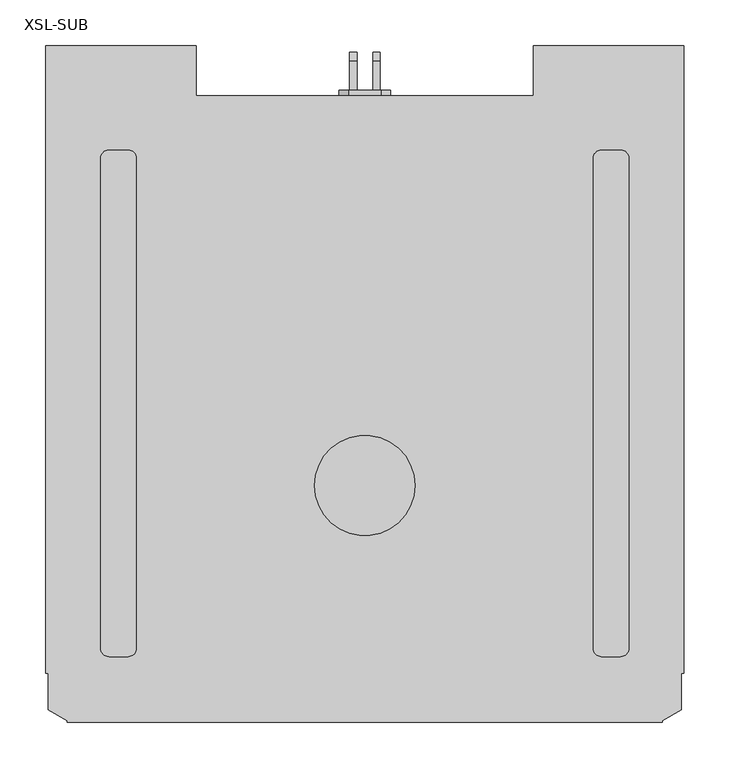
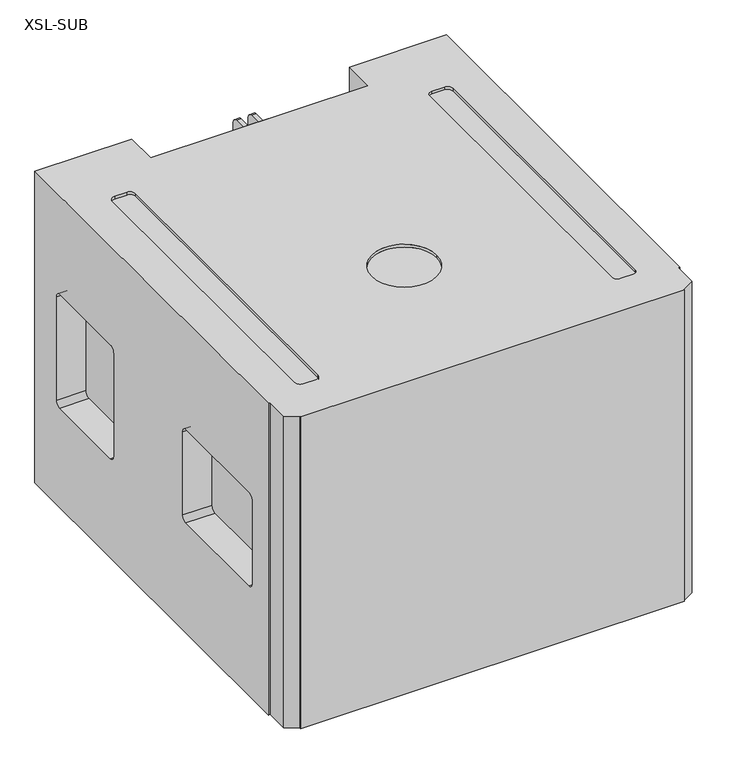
"""IFC4 building model written with IfcOpenShell, lengths in millimetres: proxy geometry, d&b SL-Series XSL-SUB : XSL-SUB."""

from ifc_helpers import new_model, si_unit, point, frame, frame_2d, origin, place, context, project, spatial, polyline, circle_curve, trimmed, segment, composite_curve, outline, extrude, source, transform, mapped, element, save
from ifc_brep_helpers import plane_surface, revolved_surface, advanced_brep


def xsl_sub_a75d85bd(model_context):
    return source(origin(), model_context, "Body", "SolidModel", [
        advanced_brep(
        [(2173.5, -29.2494027, 5.0), (2173.5, -27.5173519, 5.0), (2153.0, -15.6816714, 5.0), (2153.0, 24.2505973, 5.0), (2150.0, 24.2505973, 5.0), (2150.0, 712.2505973, 5.0), (2315.0, 712.2505973, 5.0), (2315.0, 657.2503532, 5.0), (2685.0, 657.2503532, 5.0), (2685.0, 712.2505973, 5.0), (2850.0, 712.2505973, 5.0), (2850.0, 24.2505973, 5.0), (2847.0, 24.2505973, 5.0), (2847.0, -15.6816714, 5.0), (2826.5, -27.5173519, 5.0), (2826.5, -29.2494027, 5.0), (2249.5, 588.7503532, 560.0), (2240.5, 597.7503532, 560.0), (2219.5, 597.7503532, 560.0), (2210.5, 588.7503532, 560.0), (2210.5, 51.7505973, 560.0), (2219.5, 42.7505973, 560.0), (2240.5, 42.7505973, 560.0), (2249.5, 51.7505973, 560.0), (2780.5, 597.7503532, 560.0), (2759.5, 597.7503532, 560.0), (2750.5, 588.7503532, 560.0), (2750.5, 51.7505973, 560.0), (2759.5, 42.7505973, 560.0), (2780.5, 42.7505973, 560.0), (2789.5, 51.7505973, 560.0), (2789.5, 588.7503532, 560.0), (2555.0, 230.2504752, 560.0), (2445.0, 230.2504752, 560.0), (2315.0, 712.2505973, 565.0), (2150.0, 712.2505973, 565.0), (2150.0, 24.2505973, 565.0), (2153.0, 24.2505973, 565.0), (2153.0, -15.6816714, 565.0), (2173.5, -27.5173519, 565.0), (2173.5, -29.2494027, 565.0), (2826.5, -29.2494027, 565.0), (2826.5, -27.5173519, 565.0), (2847.0, -15.6816714, 565.0), (2847.0, 24.2505973, 565.0), (2850.0, 24.2505973, 565.0), (2850.0, 712.2505973, 565.0), (2685.0, 712.2505973, 565.0), (2685.0, 657.2503532, 565.0), (2315.0, 657.2503532, 565.0), (2240.5, 597.7503532, 565.0), (2249.5, 588.7503532, 565.0), (2249.5, 51.7505973, 565.0), (2240.5, 42.7505973, 565.0), (2219.5, 42.7505973, 565.0), (2210.5, 51.7505973, 565.0), (2210.5, 588.7503532, 565.0), (2219.5, 597.7503532, 565.0), (2759.5, 597.7503532, 565.0), (2780.5, 597.7503532, 565.0), (2789.5, 588.7503532, 565.0), (2789.5, 51.7505973, 565.0), (2780.5, 42.7505973, 565.0), (2759.5, 42.7505973, 565.0), (2750.5, 51.7505973, 565.0), (2750.5, 588.7503532, 565.0), (2445.0, 230.2504752, 565.0), (2555.0, 230.2504752, 565.0), (2850.0, 639.2505973, 387.5), (2850.0, 648.2505973, 378.5), (2850.0, 648.2505973, 192.5), (2850.0, 639.2505973, 183.5), (2850.0, 489.7505973, 183.5), (2850.0, 480.7505973, 192.5), (2850.0, 480.7505973, 378.5), (2850.0, 489.7505973, 387.5), (2850.0, 81.7505973, 370.0), (2850.0, 267.7505973, 370.0), (2850.0, 276.7505973, 361.0), (2850.0, 276.7505973, 211.5), (2850.0, 267.7505973, 202.5), (2850.0, 81.7505973, 202.5), (2850.0, 72.7505973, 211.5), (2850.0, 72.7505973, 361.0), (2800.0, 639.2505973, 387.5), (2800.0, 648.2505973, 378.5), (2800.0, 648.2505973, 192.5), (2800.0, 639.2505973, 183.5), (2800.0, 489.7505973, 183.5), (2800.0, 480.7505973, 192.5), (2800.0, 480.7505973, 378.5), (2800.0, 489.7505973, 387.5), (2800.0, 81.7505973, 370.0), (2800.0, 267.7505973, 370.0), (2800.0, 276.7505973, 361.0), (2800.0, 276.7505973, 211.5), (2800.0, 267.7505973, 202.5), (2800.0, 81.7505973, 202.5), (2800.0, 72.7505973, 211.5), (2800.0, 72.7505973, 361.0), (2782.0, 707.2505973, 232.5000305), (2774.0, 707.2505973, 224.5000305), (2726.0, 707.2505973, 224.5000305), (2718.0, 707.2505973, 232.5000305), (2718.0, 707.2505973, 337.500061), (2726.0, 707.2505973, 345.500061), (2774.0, 707.2505973, 345.500061), (2782.0, 707.2505973, 337.500061), (2218.0, 707.2505973, 232.5000305), (2218.0, 707.2505973, 337.500061), (2226.0, 707.2505973, 345.500061), (2274.0, 707.2505973, 345.500061), (2282.0, 707.2505973, 337.500061), (2282.0, 707.2505973, 232.5000305), (2274.0, 707.2505973, 224.5000305), (2226.0, 707.2505973, 224.5000305), (2782.0, 712.2505973, 232.5000305), (2774.0, 712.2505973, 224.5000305), (2726.0, 712.2505973, 224.5000305), (2718.0, 712.2505973, 232.5000305), (2718.0, 712.2505973, 337.500061), (2726.0, 712.2505973, 345.500061), (2774.0, 712.2505973, 345.500061), (2782.0, 712.2505973, 337.500061), (2461.0, 657.2503532, 555.0), (2461.0, 657.2503532, 461.160254), (2461.0, 632.2503532, 461.160254), (2461.0, 632.2503532, 555.0), (2685.0, 657.2503532, 555.0), (2539.0, 657.2503532, 555.0), (2539.0, 657.2503532, 461.160254), (2685.0, 657.2503532, 376.8671147), (2685.0, 657.2503532, 368.2068607), (2539.0, 657.2503532, 452.5), (2539.0, 657.2503532, 117.5), (2685.0, 657.2503532, 201.7931393), (2685.0, 657.2503532, 193.1328853), (2539.0, 657.2503532, 108.839746), (2539.0, 657.2503532, 15.0), (2685.0, 657.2503532, 15.0), (2315.0, 657.2503532, 15.0), (2461.0, 657.2503532, 15.0), (2461.0, 657.2503532, 108.839746), (2315.0, 657.2503532, 193.1328853), (2315.0, 657.2503532, 201.7931393), (2461.0, 657.2503532, 117.5), (2461.0, 657.2503532, 452.5), (2315.0, 657.2503532, 368.2068607), (2315.0, 657.2503532, 376.8671147), (2315.0, 657.2503532, 555.0), (2218.0, 712.2505973, 337.500061), (2218.0, 712.2505973, 232.5000305), (2226.0, 712.2505973, 224.5000305), (2274.0, 712.2505973, 224.5000305), (2282.0, 712.2505973, 232.5000305), (2282.0, 712.2505973, 337.500061), (2274.0, 712.2505973, 345.500061), (2226.0, 712.2505973, 345.500061), (2200.0, 639.2505973, 387.5), (2200.0, 648.2505973, 378.5), (2200.0, 648.2505973, 192.5), (2200.0, 639.2505973, 183.5), (2200.0, 489.7505973, 183.5), (2200.0, 480.7505973, 192.5), (2200.0, 480.7505973, 378.5), (2200.0, 489.7505973, 387.5), (2200.0, 81.7505973, 370.0), (2200.0, 267.7505973, 370.0), (2200.0, 276.7505973, 361.0), (2200.0, 276.7505973, 211.5), (2200.0, 267.7505973, 202.5), (2200.0, 81.7505973, 202.5), (2200.0, 72.7505973, 211.5), (2200.0, 72.7505973, 361.0), (2685.0, 632.2503532, 15.0), (2685.0, 632.2503532, 193.1328853), (2685.0, 632.2503532, 201.7931393), (2685.0, 632.2503532, 368.2068607), (2685.0, 632.2503532, 376.8671147), (2685.0, 632.2503532, 555.0), (2539.0, 632.2503532, 15.0), (2539.0, 632.2503532, 108.839746), (2539.0, 632.2503532, 117.5), (2539.0, 632.2503532, 452.5), (2539.0, 632.2503532, 461.160254), (2539.0, 632.2503532, 555.0), (2315.0, 632.2503532, 376.8671147), (2315.0, 632.2503532, 555.0), (2315.0, 632.2503532, 201.7931393), (2315.0, 632.2503532, 368.2068607), (2461.0, 632.2503532, 452.5), (2461.0, 632.2503532, 117.5), (2315.0, 632.2503532, 15.0), (2315.0, 632.2503532, 193.1328853), (2461.0, 632.2503532, 108.839746), (2461.0, 632.2503532, 15.0), (2150.0, 639.2505973, 387.5), (2150.0, 489.7505973, 387.5), (2150.0, 480.7505973, 378.5), (2150.0, 480.7505973, 192.5), (2150.0, 489.7505973, 183.5), (2150.0, 639.2505973, 183.5), (2150.0, 648.2505973, 192.5), (2150.0, 648.2505973, 378.5), (2150.0, 81.7505973, 370.0), (2150.0, 72.7505973, 361.0), (2150.0, 72.7505973, 211.5), (2150.0, 81.7505973, 202.5), (2150.0, 267.7505973, 202.5), (2150.0, 276.7505973, 211.5), (2150.0, 276.7505973, 361.0), (2150.0, 267.7505973, 370.0)],
        [
            (0, 1),
            (1, 2),
            (2, 3),
            (3, 4),
            (4, 5),
            (5, 6),
            (6, 7),
            (7, 8),
            (8, 9),
            (9, 10),
            (10, 11),
            (11, 12),
            (12, 13),
            (13, 14),
            (14, 15),
            (15, 0),
            (16, 17, circle_curve(frame((2240.5, 588.7503532, 560.0), z_axis=(0.0, 0.0, 1.0), x_axis=(0.0, 1.0, 0.0)), 9.0)),
            (17, 18),
            (18, 19, circle_curve(frame((2219.5, 588.7503532, 560.0), z_axis=(0.0, 0.0, 1.0), x_axis=(0.0, 1.0, 0.0)), 9.0)),
            (19, 20),
            (20, 21, circle_curve(frame((2219.5, 51.7505973, 560.0), z_axis=(0.0, 0.0, 1.0), x_axis=(0.0, 1.0, 0.0)), 9.0)),
            (21, 22),
            (22, 23, circle_curve(frame((2240.5, 51.7505973, 560.0), z_axis=(0.0, 0.0, 1.0), x_axis=(0.0, 1.0, 0.0)), 9.0)),
            (23, 16),
            (24, 25),
            (25, 26, circle_curve(frame((2759.5, 588.7503532, 560.0), z_axis=(0.0, 0.0, 1.0), x_axis=(0.0, 1.0, 0.0)), 9.0)),
            (26, 27),
            (27, 28, circle_curve(frame((2759.5, 51.7505973, 560.0), z_axis=(0.0, 0.0, 1.0), x_axis=(0.0, 1.0, 0.0)), 9.0)),
            (28, 29),
            (29, 30, circle_curve(frame((2780.5, 51.7505973, 560.0), z_axis=(0.0, 0.0, 1.0), x_axis=(0.0, 1.0, 0.0)), 9.0)),
            (30, 31),
            (31, 24, circle_curve(frame((2780.5, 588.7503532, 560.0), z_axis=(0.0, 0.0, 1.0), x_axis=(0.0, 1.0, 0.0)), 9.0)),
            (32, 33, circle_curve(frame((2500.0, 230.2504752, 560.0), z_axis=(0.0, 0.0, 1.0), x_axis=(1.0, 0.0, 0.0)), 55.0)),
            (33, 32, circle_curve(frame((2500.0, 230.2504752, 560.0), z_axis=(0.0, 0.0, 1.0), x_axis=(1.0, 0.0, 0.0)), 55.0)),
            (34, 35),
            (35, 36),
            (36, 37),
            (37, 38),
            (38, 39),
            (39, 40),
            (40, 41),
            (41, 42),
            (42, 43),
            (43, 44),
            (44, 45),
            (45, 46),
            (46, 47),
            (47, 48),
            (48, 49),
            (49, 34),
            (50, 51, circle_curve(frame((2240.5, 588.7503532, 565.0), z_axis=(0.0, 0.0, -1.0), x_axis=(0.0, 1.0, 0.0)), 9.0)),
            (51, 52),
            (52, 53, circle_curve(frame((2240.5, 51.7505973, 565.0), z_axis=(0.0, 0.0, -1.0), x_axis=(0.0, 1.0, 0.0)), 9.0)),
            (53, 54),
            (54, 55, circle_curve(frame((2219.5, 51.7505973, 565.0), z_axis=(0.0, 0.0, -1.0), x_axis=(0.0, 1.0, 0.0)), 9.0)),
            (55, 56),
            (56, 57, circle_curve(frame((2219.5, 588.7503532, 565.0), z_axis=(0.0, 0.0, -1.0), x_axis=(0.0, 1.0, 0.0)), 9.0)),
            (57, 50),
            (58, 59),
            (59, 60, circle_curve(frame((2780.5, 588.7503532, 565.0), z_axis=(0.0, 0.0, -1.0), x_axis=(0.0, 1.0, 0.0)), 9.0)),
            (60, 61),
            (61, 62, circle_curve(frame((2780.5, 51.7505973, 565.0), z_axis=(0.0, 0.0, -1.0), x_axis=(0.0, 1.0, 0.0)), 9.0)),
            (62, 63),
            (63, 64, circle_curve(frame((2759.5, 51.7505973, 565.0), z_axis=(0.0, 0.0, -1.0), x_axis=(0.0, 1.0, 0.0)), 9.0)),
            (64, 65),
            (65, 58, circle_curve(frame((2759.5, 588.7503532, 565.0), z_axis=(0.0, 0.0, -1.0), x_axis=(0.0, 1.0, 0.0)), 9.0)),
            (66, 67, circle_curve(frame((2500.0, 230.2504752, 565.0), z_axis=(0.0, 0.0, -1.0), x_axis=(1.0, 0.0, 0.0)), 55.0)),
            (67, 66, circle_curve(frame((2500.0, 230.2504752, 565.0), z_axis=(0.0, 0.0, -1.0), x_axis=(1.0, 0.0, 0.0)), 55.0)),
            (50, 17),
            (16, 51),
            (23, 52),
            (22, 53),
            (21, 54),
            (20, 55),
            (19, 56),
            (18, 57),
            (10, 46),
            (45, 11),
            (68, 69, circle_curve(frame((2850.0, 639.2505973, 378.5), z_axis=(-1.0, 0.0, 0.0), x_axis=(0.0, 1.0, 0.0)), 9.0)),
            (69, 70),
            (70, 71, circle_curve(frame((2850.0, 639.2505973, 192.5), z_axis=(-1.0, 0.0, 0.0), x_axis=(0.0, 1.0, 0.0)), 9.0)),
            (71, 72),
            (72, 73, circle_curve(frame((2850.0, 489.7505973, 192.5), z_axis=(-1.0, 0.0, 0.0), x_axis=(0.0, 1.0, 0.0)), 9.0)),
            (73, 74),
            (74, 75, circle_curve(frame((2850.0, 489.7505973, 378.5), z_axis=(-1.0, 0.0, 0.0), x_axis=(0.0, 1.0, 0.0)), 9.0)),
            (75, 68),
            (76, 77),
            (77, 78, circle_curve(frame((2850.0, 267.7505973, 361.0), z_axis=(-1.0, 0.0, 0.0), x_axis=(0.0, 1.0, 0.0)), 9.0)),
            (78, 79),
            (79, 80, circle_curve(frame((2850.0, 267.7505973, 211.5), z_axis=(-1.0, 0.0, 0.0), x_axis=(0.0, 1.0, 0.0)), 9.0)),
            (80, 81),
            (81, 82, circle_curve(frame((2850.0, 81.7505973, 211.5), z_axis=(-1.0, 0.0, 0.0), x_axis=(0.0, 1.0, 0.0)), 9.0)),
            (82, 83),
            (83, 76, circle_curve(frame((2850.0, 81.7505973, 361.0), z_axis=(-1.0, 0.0, 0.0), x_axis=(0.0, 1.0, 0.0)), 9.0)),
            (44, 12),
            (68, 84),
            (84, 85, circle_curve(frame((2800.0, 639.2505973, 378.5), z_axis=(-1.0, 0.0, 0.0), x_axis=(0.0, 1.0, 0.0)), 9.0)),
            (85, 69),
            (85, 86),
            (86, 70),
            (86, 87, circle_curve(frame((2800.0, 639.2505973, 192.5), z_axis=(-1.0, 0.0, 0.0), x_axis=(0.0, 1.0, 0.0)), 9.0)),
            (87, 71),
            (87, 88),
            (88, 72),
            (88, 89, circle_curve(frame((2800.0, 489.7505973, 192.5), z_axis=(-1.0, 0.0, 0.0), x_axis=(0.0, 1.0, 0.0)), 9.0)),
            (89, 73),
            (89, 90),
            (90, 74),
            (90, 91, circle_curve(frame((2800.0, 489.7505973, 378.5), z_axis=(-1.0, 0.0, 0.0), x_axis=(0.0, 1.0, 0.0)), 9.0)),
            (91, 75),
            (91, 84),
            (76, 92),
            (92, 93),
            (93, 77),
            (93, 94, circle_curve(frame((2800.0, 267.7505973, 361.0), z_axis=(-1.0, 0.0, 0.0), x_axis=(0.0, 1.0, 0.0)), 9.0)),
            (94, 78),
            (94, 95),
            (95, 79),
            (95, 96, circle_curve(frame((2800.0, 267.7505973, 211.5), z_axis=(-1.0, 0.0, 0.0), x_axis=(0.0, 1.0, 0.0)), 9.0)),
            (96, 80),
            (96, 97),
            (97, 81),
            (97, 98, circle_curve(frame((2800.0, 81.7505973, 211.5), z_axis=(-1.0, 0.0, 0.0), x_axis=(0.0, 1.0, 0.0)), 9.0)),
            (98, 82),
            (98, 99),
            (99, 83),
            (99, 92, circle_curve(frame((2800.0, 81.7505973, 361.0), z_axis=(-1.0, 0.0, 0.0), x_axis=(0.0, 1.0, 0.0)), 9.0)),
            (100, 101, circle_curve(frame((2774.0, 707.2505973, 232.5000305), z_axis=(0.0, 1.0, 0.0), x_axis=(-1.0, 0.0, 0.0)), 8.0)),
            (101, 102),
            (102, 103, circle_curve(frame((2726.0, 707.2505973, 232.5000305), z_axis=(0.0, 1.0, 0.0), x_axis=(-1.0, 0.0, 0.0)), 8.0)),
            (103, 104),
            (104, 105, circle_curve(frame((2726.0, 707.2505973, 337.500061), z_axis=(0.0, 1.0, 0.0), x_axis=(-1.0, 0.0, 0.0)), 8.0)),
            (105, 106),
            (106, 107, circle_curve(frame((2774.0, 707.2505973, 337.500061), z_axis=(0.0, 1.0, 0.0), x_axis=(-1.0, 0.0, 0.0)), 8.0)),
            (107, 100),
            (108, 109),
            (109, 110, circle_curve(frame((2226.0, 707.2505973, 337.500061), z_axis=(0.0, 1.0, 0.0), x_axis=(1.0, 0.0, 0.0)), 8.0)),
            (110, 111),
            (111, 112, circle_curve(frame((2274.0, 707.2505973, 337.500061), z_axis=(0.0, 1.0, 0.0), x_axis=(1.0, 0.0, 0.0)), 8.0)),
            (112, 113),
            (113, 114, circle_curve(frame((2274.0, 707.2505973, 232.5000305), z_axis=(0.0, 1.0, 0.0), x_axis=(1.0, 0.0, 0.0)), 8.0)),
            (114, 115),
            (115, 108, circle_curve(frame((2226.0, 707.2505973, 232.5000305), z_axis=(0.0, 1.0, 0.0), x_axis=(1.0, 0.0, 0.0)), 8.0)),
            (100, 116),
            (116, 117, circle_curve(frame((2774.0, 712.2505973, 232.5000305), z_axis=(0.0, 1.0, 0.0), x_axis=(-1.0, 0.0, 0.0)), 8.0)),
            (117, 101),
            (117, 118),
            (118, 102),
            (118, 119, circle_curve(frame((2726.0, 712.2505973, 232.5000305), z_axis=(0.0, 1.0, 0.0), x_axis=(-1.0, 0.0, 0.0)), 8.0)),
            (119, 103),
            (119, 120),
            (120, 104),
            (120, 121, circle_curve(frame((2726.0, 712.2505973, 337.500061), z_axis=(0.0, 1.0, 0.0), x_axis=(-1.0, 0.0, 0.0)), 8.0)),
            (121, 105),
            (121, 122),
            (122, 106),
            (122, 123, circle_curve(frame((2774.0, 712.2505973, 337.500061), z_axis=(0.0, 1.0, 0.0), x_axis=(-1.0, 0.0, 0.0)), 8.0)),
            (123, 107),
            (123, 116),
            (124, 125),
            (125, 126),
            (126, 127),
            (127, 124),
            (48, 128),
            (128, 129),
            (129, 130),
            (130, 131),
            (131, 132),
            (132, 133),
            (133, 134),
            (134, 135),
            (135, 136),
            (136, 137),
            (137, 138),
            (138, 139),
            (139, 8),
            (7, 140),
            (140, 141),
            (141, 142),
            (142, 143),
            (143, 144),
            (144, 145),
            (145, 146),
            (146, 147),
            (147, 148),
            (148, 125),
            (124, 149),
            (149, 49),
            (58, 25),
            (24, 59),
            (31, 60),
            (30, 61),
            (29, 62),
            (28, 63),
            (27, 64),
            (26, 65),
            (5, 35),
            (34, 6),
            (150, 151),
            (151, 152, circle_curve(frame((2226.0, 712.2505973, 232.5000305), z_axis=(0.0, -1.0, 0.0), x_axis=(1.0, 0.0, 0.0)), 8.0)),
            (152, 153),
            (153, 154, circle_curve(frame((2274.0, 712.2505973, 232.5000305), z_axis=(0.0, -1.0, 0.0), x_axis=(1.0, 0.0, 0.0)), 8.0)),
            (154, 155),
            (155, 156, circle_curve(frame((2274.0, 712.2505973, 337.500061), z_axis=(0.0, -1.0, 0.0), x_axis=(1.0, 0.0, 0.0)), 8.0)),
            (156, 157),
            (157, 150, circle_curve(frame((2226.0, 712.2505973, 337.500061), z_axis=(0.0, -1.0, 0.0), x_axis=(1.0, 0.0, 0.0)), 8.0)),
            (158, 159, circle_curve(frame((2200.0, 639.2505973, 378.5), z_axis=(-1.0, 0.0, 0.0), x_axis=(0.0, 1.0, 0.0)), 9.0)),
            (159, 160),
            (160, 161, circle_curve(frame((2200.0, 639.2505973, 192.5), z_axis=(-1.0, 0.0, 0.0), x_axis=(0.0, 1.0, 0.0)), 9.0)),
            (161, 162),
            (162, 163, circle_curve(frame((2200.0, 489.7505973, 192.5), z_axis=(-1.0, 0.0, 0.0), x_axis=(0.0, 1.0, 0.0)), 9.0)),
            (163, 164),
            (164, 165, circle_curve(frame((2200.0, 489.7505973, 378.5), z_axis=(-1.0, 0.0, 0.0), x_axis=(0.0, 1.0, 0.0)), 9.0)),
            (165, 158),
            (166, 167),
            (167, 168, circle_curve(frame((2200.0, 267.7505973, 361.0), z_axis=(-1.0, 0.0, 0.0), x_axis=(0.0, 1.0, 0.0)), 9.0)),
            (168, 169),
            (169, 170, circle_curve(frame((2200.0, 267.7505973, 211.5), z_axis=(-1.0, 0.0, 0.0), x_axis=(0.0, 1.0, 0.0)), 9.0)),
            (170, 171),
            (171, 172, circle_curve(frame((2200.0, 81.7505973, 211.5), z_axis=(-1.0, 0.0, 0.0), x_axis=(0.0, 1.0, 0.0)), 9.0)),
            (172, 173),
            (173, 166, circle_curve(frame((2200.0, 81.7505973, 361.0), z_axis=(-1.0, 0.0, 0.0), x_axis=(0.0, 1.0, 0.0)), 9.0)),
            (15, 41),
            (40, 0),
            (9, 47),
            (139, 174),
            (174, 175),
            (175, 136),
            (135, 176),
            (176, 177),
            (177, 132),
            (131, 178),
            (178, 179),
            (179, 128),
            (174, 180),
            (180, 181),
            (181, 175),
            (176, 182),
            (182, 183),
            (183, 177),
            (178, 184),
            (184, 185),
            (185, 179),
            (186, 187),
            (187, 127),
            (126, 186),
            (188, 189),
            (189, 190),
            (190, 191),
            (191, 188),
            (192, 193),
            (193, 194),
            (194, 195),
            (195, 192),
            (149, 187),
            (186, 148),
            (147, 189),
            (188, 144),
            (143, 193),
            (192, 140),
            (4, 36),
            (196, 197),
            (197, 198, circle_curve(frame((2150.0, 489.7505973, 378.5), z_axis=(1.0, 0.0, 0.0), x_axis=(0.0, 1.0, 0.0)), 9.0)),
            (198, 199),
            (199, 200, circle_curve(frame((2150.0, 489.7505973, 192.5), z_axis=(1.0, 0.0, 0.0), x_axis=(0.0, 1.0, 0.0)), 9.0)),
            (200, 201),
            (201, 202, circle_curve(frame((2150.0, 639.2505973, 192.5), z_axis=(1.0, 0.0, 0.0), x_axis=(0.0, 1.0, 0.0)), 9.0)),
            (202, 203),
            (203, 196, circle_curve(frame((2150.0, 639.2505973, 378.5), z_axis=(1.0, 0.0, 0.0), x_axis=(0.0, 1.0, 0.0)), 9.0)),
            (204, 205, circle_curve(frame((2150.0, 81.7505973, 361.0), z_axis=(1.0, 0.0, 0.0), x_axis=(0.0, 1.0, 0.0)), 9.0)),
            (205, 206),
            (206, 207, circle_curve(frame((2150.0, 81.7505973, 211.5), z_axis=(1.0, 0.0, 0.0), x_axis=(0.0, 1.0, 0.0)), 9.0)),
            (207, 208),
            (208, 209, circle_curve(frame((2150.0, 267.7505973, 211.5), z_axis=(1.0, 0.0, 0.0), x_axis=(0.0, 1.0, 0.0)), 9.0)),
            (209, 210),
            (210, 211, circle_curve(frame((2150.0, 267.7505973, 361.0), z_axis=(1.0, 0.0, 0.0), x_axis=(0.0, 1.0, 0.0)), 9.0)),
            (211, 204),
            (3, 37),
            (203, 159),
            (158, 196),
            (202, 160),
            (201, 161),
            (200, 162),
            (199, 163),
            (198, 164),
            (197, 165),
            (211, 167),
            (166, 204),
            (210, 168),
            (209, 169),
            (208, 170),
            (207, 171),
            (206, 172),
            (205, 173),
            (185, 129),
            (184, 130),
            (183, 133),
            (182, 134),
            (181, 137),
            (180, 138),
            (195, 141),
            (194, 142),
            (191, 145),
            (190, 146),
            (2, 38),
            (1, 39),
            (14, 42),
            (13, 43),
            (66, 33),
            (32, 67),
            (108, 151),
            (150, 109),
            (157, 110),
            (156, 111),
            (155, 112),
            (154, 113),
            (153, 114),
            (152, 115),
        ],
        [
            plane_surface(frame((1715.924767, 712.2505973, 5.0), z_axis=(0.0, 0.0, -1.0), x_axis=(1.0, 0.0, 0.0))),
            plane_surface(frame((1715.924767, 712.2505973, 560.0), z_axis=(0.0, 0.0, 1.0), x_axis=(-1.0, 0.0, 0.0))),
            plane_surface(frame((1715.924767, 712.2505973, 565.0), z_axis=(0.0, 0.0, 1.0), x_axis=(-1.0, 0.0, 0.0))),
            revolved_surface(polyline([(2240.5, 597.7503532, 560.0), (2240.5, 597.7503532, 565.0)]), (2240.5, 588.7503532, 565.0), (0.0, 0.0, -1.0)),
            plane_surface(frame((2249.5, 588.7503532, 565.0), z_axis=(-1.0, 0.0, 0.0), x_axis=(0.0, 0.0, -1.0))),
            revolved_surface(polyline([(2240.5, 60.7505973, 560.0), (2240.5, 60.7505973, 565.0)]), (2240.5, 51.7505973, 565.0), (0.0, 0.0, -1.0)),
            plane_surface(frame((2240.5, 42.7505973, 565.0), z_axis=(0.0, 1.0, 0.0), x_axis=(0.0, 0.0, -1.0))),
            revolved_surface(polyline([(2219.5, 60.7505973, 560.0), (2219.5, 60.7505973, 565.0)]), (2219.5, 51.7505973, 565.0), (0.0, 0.0, -1.0)),
            plane_surface(frame((2210.5, 51.7505973, 565.0), z_axis=(1.0, 0.0, 0.0), x_axis=(0.0, 0.0, -1.0))),
            revolved_surface(polyline([(2219.5, 597.7503532, 560.0), (2219.5, 597.7503532, 565.0)]), (2219.5, 588.7503532, 565.0), (0.0, 0.0, -1.0)),
            plane_surface(frame((2219.5, 597.7503532, 565.0), z_axis=(0.0, -1.0, 0.0), x_axis=(0.0, 0.0, -1.0))),
            plane_surface(frame((2850.0, 1156.2505973, 560.0), z_axis=(1.0, 0.0, 0.0), x_axis=(0.0, -1.0, 0.0))),
            plane_surface(frame((2780.0, 24.2505973, 5.0), z_axis=(0.0, -1.0, 0.0), x_axis=(1.0, 0.0, 0.0))),
            revolved_surface(polyline([(2850.0, 648.2505973, 378.5), (2800.0, 648.2505973, 378.5)]), (2850.0, 639.2505973, 378.5), (1.0, 0.0, 0.0)),
            plane_surface(frame((2780.0, 648.2505973, 192.5), z_axis=(0.0, -1.0, 0.0), x_axis=(1.0, 0.0, 0.0))),
            revolved_surface(polyline([(2850.0, 648.2505973, 192.5), (2800.0, 648.2505973, 192.5)]), (2850.0, 639.2505973, 192.5), (1.0, 0.0, 0.0)),
            plane_surface(frame((2780.0, 489.7505973, 183.5), z_axis=(0.0, 0.0, 1.0), x_axis=(1.0, 0.0, 0.0))),
            revolved_surface(polyline([(2850.0, 498.7505973, 192.5), (2800.0, 498.7505973, 192.5)]), (2850.0, 489.7505973, 192.5), (1.0, 0.0, 0.0)),
            plane_surface(frame((2780.0, 480.7505973, 378.5), z_axis=(0.0, 1.0, 0.0), x_axis=(1.0, 0.0, 0.0))),
            revolved_surface(polyline([(2850.0, 498.7505973, 378.5), (2800.0, 498.7505973, 378.5)]), (2850.0, 489.7505973, 378.5), (1.0, 0.0, 0.0)),
            plane_surface(frame((2780.0, 639.2505973, 387.5), z_axis=(0.0, 0.0, -1.0), x_axis=(1.0, 0.0, 0.0))),
            plane_surface(frame((2780.0, 267.7505973, 370.0), z_axis=(0.0, 0.0, -1.0), x_axis=(1.0, 0.0, 0.0))),
            revolved_surface(polyline([(2850.0, 276.7505973, 361.0), (2800.0, 276.7505973, 361.0)]), (2850.0, 267.7505973, 361.0), (1.0, 0.0, 0.0)),
            plane_surface(frame((2780.0, 276.7505973, 211.5), z_axis=(0.0, -1.0, 0.0), x_axis=(1.0, 0.0, 0.0))),
            revolved_surface(polyline([(2850.0, 276.7505973, 211.5), (2800.0, 276.7505973, 211.5)]), (2850.0, 267.7505973, 211.5), (1.0, 0.0, 0.0)),
            plane_surface(frame((2780.0, 81.7505973, 202.5), z_axis=(0.0, 0.0, 1.0), x_axis=(1.0, 0.0, 0.0))),
            revolved_surface(polyline([(2850.0, 90.7505973, 211.5), (2800.0, 90.7505973, 211.5)]), (2850.0, 81.7505973, 211.5), (1.0, 0.0, 0.0)),
            plane_surface(frame((2780.0, 72.7505973, 361.0), z_axis=(0.0, 1.0, 0.0), x_axis=(1.0, 0.0, 0.0))),
            revolved_surface(polyline([(2850.0, 90.7505973, 361.0), (2800.0, 90.7505973, 361.0)]), (2850.0, 81.7505973, 361.0), (1.0, 0.0, 0.0)),
            plane_surface(frame((2766.0, 707.2505973, 232.5000305), z_axis=(0.0, 1.0, 0.0), x_axis=(0.0, 0.0, -1.0))),
            revolved_surface(polyline([(2766.0, 712.2505973, 232.5000305), (2766.0, 707.2505973, 232.5000305)]), (2774.0, 707.2505973, 232.5000305), (0.0, 1.0, 0.0)),
            plane_surface(frame((2774.0, 712.2505973, 224.5000305), z_axis=(0.0, 0.0, 1.0), x_axis=(0.0, -1.0, 0.0))),
            revolved_surface(polyline([(2718.0, 712.2505973, 232.5000305), (2718.0, 707.2505973, 232.5000305)]), (2726.0, 707.2505973, 232.5000305), (0.0, 1.0, 0.0)),
            plane_surface(frame((2718.0, 712.2505973, 232.5000305), z_axis=(1.0, 0.0, 0.0), x_axis=(0.0, -1.0, 0.0))),
            revolved_surface(polyline([(2718.0, 712.2505973, 337.500061), (2718.0, 707.2505973, 337.500061)]), (2726.0, 707.2505973, 337.500061), (0.0, 1.0, 0.0)),
            plane_surface(frame((2726.0, 712.2505973, 345.500061), z_axis=(0.0, 0.0, -1.0), x_axis=(0.0, -1.0, 0.0))),
            revolved_surface(polyline([(2766.0, 712.2505973, 337.500061), (2766.0, 707.2505973, 337.500061)]), (2774.0, 707.2505973, 337.500061), (0.0, 1.0, 0.0)),
            plane_surface(frame((2782.0, 712.2505973, 337.500061), z_axis=(-1.0, 0.0, 0.0), x_axis=(0.0, -1.0, 0.0))),
            plane_surface(frame((2461.0, 657.2503532, 461.160254), z_axis=(-1.0, 0.0, 0.0), x_axis=(0.0, -1.0, 0.0))),
            plane_surface(frame((2685.0, 657.2503532, 565.0), z_axis=(0.0, 1.0, 0.0), x_axis=(0.0, 0.0, -1.0))),
            plane_surface(frame((2759.5, 597.7503532, 565.0), z_axis=(0.0, -1.0, 0.0), x_axis=(0.0, 0.0, -1.0))),
            revolved_surface(polyline([(2780.5, 597.7503532, 560.0), (2780.5, 597.7503532, 565.0)]), (2780.5, 588.7503532, 565.0), (0.0, 0.0, -1.0)),
            plane_surface(frame((2789.5, 588.7503532, 565.0), z_axis=(-1.0, 0.0, 0.0), x_axis=(0.0, 0.0, -1.0))),
            revolved_surface(polyline([(2780.5, 60.7505973, 560.0), (2780.5, 60.7505973, 565.0)]), (2780.5, 51.7505973, 565.0), (0.0, 0.0, -1.0)),
            plane_surface(frame((2780.5, 42.7505973, 565.0), z_axis=(0.0, 1.0, 0.0), x_axis=(0.0, 0.0, -1.0))),
            revolved_surface(polyline([(2759.5, 60.7505973, 560.0), (2759.5, 60.7505973, 565.0)]), (2759.5, 51.7505973, 565.0), (0.0, 0.0, -1.0)),
            plane_surface(frame((2750.5, 51.7505973, 565.0), z_axis=(1.0, 0.0, 0.0), x_axis=(0.0, 0.0, -1.0))),
            revolved_surface(polyline([(2759.5, 597.7503532, 560.0), (2759.5, 597.7503532, 565.0)]), (2759.5, 588.7503532, 565.0), (0.0, 0.0, -1.0)),
            plane_surface(frame((2315.0, 712.2505973, 560.0), z_axis=(0.0, 1.0, 0.0), x_axis=(0.0, 0.0, -1.0))),
            plane_surface(frame((2200.0, 712.2505973, 560.0), z_axis=(-1.0, 0.0, 0.0), x_axis=(0.0, 0.0, -1.0))),
            plane_surface(frame((2200.0, -29.2494027, 560.0), z_axis=(0.0, -1.0, 0.0), x_axis=(0.0, 0.0, -1.0))),
            plane_surface(frame((2800.0, -29.2494027, 560.0), z_axis=(1.0, 0.0, 0.0), x_axis=(0.0, 0.0, -1.0))),
            plane_surface(frame((2800.0, 712.2505973, 560.0), z_axis=(0.0, 1.0, 0.0), x_axis=(0.0, 0.0, -1.0))),
            plane_surface(frame((2685.0, 712.2505973, 560.0), z_axis=(-1.0, 0.0, 0.0), x_axis=(0.0, 0.0, -1.0))),
            plane_surface(frame((2685.0, 632.2503532, 560.0), z_axis=(0.0, 1.0, 0.0), x_axis=(0.0, 0.0, -1.0))),
            plane_surface(frame((2315.0, 632.2503532, 560.0), z_axis=(1.0, 0.0, 0.0), x_axis=(0.0, 0.0, -1.0))),
            plane_surface(frame((2150.0, 24.2505973, -19.8), z_axis=(-1.0, 0.0, 0.0), x_axis=(0.0, 0.0, 1.0))),
            plane_surface(frame((2220.0, 24.2505973, 560.0), z_axis=(0.0, -1.0, 0.0), x_axis=(-1.0, 0.0, 0.0))),
            revolved_surface(polyline([(2150.0, 648.2505973, 378.5), (2200.0, 648.2505973, 378.5)]), (2150.0, 639.2505973, 378.5), (-1.0, 0.0, 0.0)),
            plane_surface(frame((2220.0, 648.2505973, 378.5), z_axis=(0.0, -1.0, 0.0), x_axis=(-1.0, 0.0, 0.0))),
            revolved_surface(polyline([(2150.0, 648.2505973, 192.5), (2200.0, 648.2505973, 192.5)]), (2150.0, 639.2505973, 192.5), (-1.0, 0.0, 0.0)),
            plane_surface(frame((2220.0, 639.2505973, 183.5), z_axis=(0.0, 0.0, 1.0), x_axis=(-1.0, 0.0, 0.0))),
            revolved_surface(polyline([(2150.0, 498.7505973, 192.5), (2200.0, 498.7505973, 192.5)]), (2150.0, 489.7505973, 192.5), (-1.0, 0.0, 0.0)),
            plane_surface(frame((2220.0, 480.7505973, 192.5), z_axis=(0.0, 1.0, 0.0), x_axis=(-1.0, 0.0, 0.0))),
            revolved_surface(polyline([(2150.0, 498.7505973, 378.5), (2200.0, 498.7505973, 378.5)]), (2150.0, 489.7505973, 378.5), (-1.0, 0.0, 0.0)),
            plane_surface(frame((2220.0, 489.7505973, 387.5), z_axis=(0.0, 0.0, -1.0), x_axis=(-1.0, 0.0, 0.0))),
            plane_surface(frame((2220.0, 81.7505973, 370.0), z_axis=(0.0, 0.0, -1.0), x_axis=(-1.0, 0.0, 0.0))),
            revolved_surface(polyline([(2150.0, 276.7505973, 361.0), (2200.0, 276.7505973, 361.0)]), (2150.0, 267.7505973, 361.0), (-1.0, 0.0, 0.0)),
            plane_surface(frame((2220.0, 276.7505973, 361.0), z_axis=(0.0, -1.0, 0.0), x_axis=(-1.0, 0.0, 0.0))),
            revolved_surface(polyline([(2150.0, 276.7505973, 211.5), (2200.0, 276.7505973, 211.5)]), (2150.0, 267.7505973, 211.5), (-1.0, 0.0, 0.0)),
            plane_surface(frame((2220.0, 267.7505973, 202.5), z_axis=(0.0, 0.0, 1.0), x_axis=(-1.0, 0.0, 0.0))),
            revolved_surface(polyline([(2150.0, 90.7505973, 211.5), (2200.0, 90.7505973, 211.5)]), (2150.0, 81.7505973, 211.5), (-1.0, 0.0, 0.0)),
            plane_surface(frame((2220.0, 72.7505973, 211.5), z_axis=(0.0, 1.0, 0.0), x_axis=(-1.0, 0.0, 0.0))),
            revolved_surface(polyline([(2150.0, 90.7505973, 361.0), (2200.0, 90.7505973, 361.0)]), (2150.0, 81.7505973, 361.0), (-1.0, 0.0, 0.0)),
            plane_surface(frame((2685.0, 657.2503532, 555.0), z_axis=(0.0, 0.0, -1.0), x_axis=(0.0, -1.0, 0.0))),
            plane_surface(frame((2539.0, 657.2503532, 555.0), z_axis=(1.0, 0.0, 0.0), x_axis=(0.0, -1.0, 0.0))),
            plane_surface(frame((2539.0, 657.2503532, 461.160254), z_axis=(0.4999999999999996, 0.0, 0.8660254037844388), x_axis=(0.0, -1.0, 0.0))),
            plane_surface(frame((2685.0, 657.2503532, 368.2068607), z_axis=(-0.49999999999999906, 0.0, -0.8660254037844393), x_axis=(0.0, -1.0, 0.0))),
            plane_surface(frame((2539.0, 657.2503532, 452.5), z_axis=(1.0, 0.0, 0.0), x_axis=(0.0, -1.0, 0.0))),
            plane_surface(frame((2539.0, 657.2503532, 117.5), z_axis=(-0.4999999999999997, 0.0, 0.8660254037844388), x_axis=(0.0, -1.0, 0.0))),
            plane_surface(frame((2685.0, 657.2503532, 193.1328853), z_axis=(0.4999999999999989, 0.0, -0.8660254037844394), x_axis=(0.0, -1.0, 0.0))),
            plane_surface(frame((2539.0, 657.2503532, 108.839746), z_axis=(1.0, 0.0, 0.0), x_axis=(0.0, -1.0, 0.0))),
            plane_surface(frame((2539.0, 657.2503532, 15.0), z_axis=(0.0, 0.0, 1.0), x_axis=(0.0, -1.0, 0.0))),
            plane_surface(frame((2315.0, 657.2503532, 15.0), z_axis=(0.0, 0.0, 1.0), x_axis=(0.0, -1.0, 0.0))),
            plane_surface(frame((2461.0, 657.2503532, 15.0), z_axis=(-1.0, 0.0, 0.0), x_axis=(0.0, -1.0, 0.0))),
            plane_surface(frame((2461.0, 657.2503532, 108.839746), z_axis=(-0.4999999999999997, 0.0, -0.8660254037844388), x_axis=(0.0, -1.0, 0.0))),
            plane_surface(frame((2315.0, 657.2503532, 201.7931393), z_axis=(0.49999999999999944, 0.0, 0.866025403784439), x_axis=(0.0, -1.0, 0.0))),
            plane_surface(frame((2461.0, 657.2503532, 117.5), z_axis=(-1.0, 0.0, 0.0), x_axis=(0.0, -1.0, 0.0))),
            plane_surface(frame((2461.0, 657.2503532, 452.5), z_axis=(0.4999999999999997, 0.0, -0.8660254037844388), x_axis=(0.0, -1.0, 0.0))),
            plane_surface(frame((2315.0, 657.2503532, 376.8671147), z_axis=(-0.4999999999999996, 0.0, 0.8660254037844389), x_axis=(0.0, -1.0, 0.0))),
            plane_surface(frame((2461.0, 657.2503532, 555.0), z_axis=(0.0, 0.0, -1.0), x_axis=(0.0, -1.0, 0.0))),
            plane_surface(frame((2153.0, 24.2505973, 565.0), z_axis=(-1.0, 0.0, 0.0), x_axis=(0.0, 0.0, -1.0))),
            plane_surface(frame((2153.0, -15.6816714, 565.0), z_axis=(-0.49999999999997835, -0.8660254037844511, 0.0), x_axis=(0.0, 0.0, -1.0))),
            plane_surface(frame((2173.5, -27.5173519, 565.0), z_axis=(-1.0, 0.0, 0.0), x_axis=(0.0, 0.0, -1.0))),
            plane_surface(frame((2826.5, -29.2494027, 565.0), z_axis=(1.0, 0.0, 0.0), x_axis=(0.0, 0.0, -1.0))),
            plane_surface(frame((2826.5, -27.5173519, 565.0), z_axis=(0.4999999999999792, -0.8660254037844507, 0.0), x_axis=(0.0, 0.0, -1.0))),
            plane_surface(frame((2847.0, -15.6816714, 565.0), z_axis=(1.0, 0.0, 0.0), x_axis=(0.0, 0.0, -1.0))),
            revolved_surface(polyline([(2555.0, 230.2504752, 560.0), (2555.0, 230.2504752, 565.0)]), (2500.0, 230.2504752, 565.0), (0.0, 0.0, -1.0)),
            plane_surface(frame((2218.0, 712.2505973, 232.5000305), z_axis=(1.0, 0.0, 0.0), x_axis=(0.0, -1.0, 0.0))),
            revolved_surface(polyline([(2234.0, 712.2505973, 337.500061), (2234.0, 707.2505973, 337.500061)]), (2226.0, 712.2505973, 337.500061), (0.0, 1.0, 0.0)),
            plane_surface(frame((2226.0, 712.2505973, 345.500061), z_axis=(0.0, 0.0, -1.0), x_axis=(0.0, -1.0, 0.0))),
            revolved_surface(polyline([(2282.0, 712.2505973, 337.500061), (2282.0, 707.2505973, 337.500061)]), (2274.0, 712.2505973, 337.500061), (0.0, 1.0, 0.0)),
            plane_surface(frame((2282.0, 712.2505973, 337.500061), z_axis=(-1.0, 0.0, 0.0), x_axis=(0.0, -1.0, 0.0))),
            revolved_surface(polyline([(2282.0, 712.2505973, 232.5000305), (2282.0, 707.2505973, 232.5000305)]), (2274.0, 712.2505973, 232.5000305), (0.0, 1.0, 0.0)),
            plane_surface(frame((2274.0, 712.2505973, 224.5000305), z_axis=(0.0, 0.0, 1.0), x_axis=(0.0, -1.0, 0.0))),
            revolved_surface(polyline([(2234.0, 712.2505973, 232.5000305), (2234.0, 707.2505973, 232.5000305)]), (2226.0, 712.2505973, 232.5000305), (0.0, 1.0, 0.0)),
        ],
        [
            (0, [[1, 2, 3, 4, 5, 6, 7, 8, 9, 10, 11, 12, 13, 14, 15, 16]]),
            (1, [[17, 18, 19, 20, 21, 22, 23, 24]]),
            (1, [[25, 26, 27, 28, 29, 30, 31, 32]]),
            (1, [[33, 34]]),
            (2, [[35, 36, 37, 38, 39, 40, 41, 42, 43, 44, 45, 46, 47, 48, 49, 50], [51, 52, 53, 54, 55, 56, 57, 58], [59, 60, 61, 62, 63, 64, 65, 66], [67, 68]]),
            (3, [[-51, 69, -17, 70]]),
            (4, [[-52, -70, -24, 71]]),
            (5, [[-53, -71, -23, 72]]),
            (6, [[-54, -72, -22, 73]]),
            (7, [[-55, -73, -21, 74]]),
            (8, [[-56, -74, -20, 75]]),
            (9, [[-57, -75, -19, 76]]),
            (10, [[-58, -76, -18, -69]]),
            (11, [[-11, 77, -46, 78], [79, 80, 81, 82, 83, 84, 85, 86], [87, 88, 89, 90, 91, 92, 93, 94]]),
            (12, [[-78, -45, 95, -12]]),
            (13, [[-79, 96, 97, 98]]),
            (14, [[-80, -98, 99, 100]]),
            (15, [[-81, -100, 101, 102]]),
            (16, [[-82, -102, 103, 104]]),
            (17, [[-83, -104, 105, 106]]),
            (18, [[-84, -106, 107, 108]]),
            (19, [[-85, -108, 109, 110]]),
            (20, [[-86, -110, 111, -96]]),
            (21, [[-87, 112, 113, 114]]),
            (22, [[-88, -114, 115, 116]]),
            (23, [[-89, -116, 117, 118]]),
            (24, [[-90, -118, 119, 120]]),
            (25, [[-91, -120, 121, 122]]),
            (26, [[-92, -122, 123, 124]]),
            (27, [[-93, -124, 125, 126]]),
            (28, [[-94, -126, 127, -112]]),
            (29, [[128, 129, 130, 131, 132, 133, 134, 135]]),
            (29, [[136, 137, 138, 139, 140, 141, 142, 143]]),
            (30, [[-128, 144, 145, 146]]),
            (31, [[-129, -146, 147, 148]]),
            (32, [[-130, -148, 149, 150]]),
            (33, [[-131, -150, 151, 152]]),
            (34, [[-132, -152, 153, 154]]),
            (35, [[-133, -154, 155, 156]]),
            (36, [[-134, -156, 157, 158]]),
            (37, [[-135, -158, 159, -144]]),
            (38, [[160, 161, 162, 163]]),
            (39, [[-49, 164, 165, 166, 167, 168, 169, 170, 171, 172, 173, 174, 175, 176, -8, 177, 178, 179, 180, 181, 182, 183, 184, 185, 186, -160, 187, 188]]),
            (40, [[-59, 189, -25, 190]]),
            (41, [[-60, -190, -32, 191]]),
            (42, [[-61, -191, -31, 192]]),
            (43, [[-62, -192, -30, 193]]),
            (44, [[-63, -193, -29, 194]]),
            (45, [[-64, -194, -28, 195]]),
            (46, [[-65, -195, -27, 196]]),
            (47, [[-66, -196, -26, -189]]),
            (48, [[-6, 197, -35, 198], [199, 200, 201, 202, 203, 204, 205, 206]]),
            (49, [[207, 208, 209, 210, 211, 212, 213, 214]]),
            (49, [[215, 216, 217, 218, 219, 220, 221, 222]]),
            (50, [[-16, 223, -41, 224]]),
            (51, [[-97, -111, -109, -107, -105, -103, -101, -99]]),
            (51, [[-113, -127, -125, -123, -121, -119, -117, -115]]),
            (52, [[-10, 225, -47, -77], [-145, -159, -157, -155, -153, -151, -149, -147]]),
            (53, [[-48, -225, -9, -176, 226, 227, 228, -172, 229, 230, 231, -168, 232, 233, 234, -164]]),
            (54, [[-227, 235, 236, 237]]),
            (54, [[-230, 238, 239, 240]]),
            (54, [[-233, 241, 242, 243]]),
            (54, [[244, 245, -162, 246]]),
            (54, [[247, 248, 249, 250]]),
            (54, [[251, 252, 253, 254]]),
            (55, [[-50, -188, 255, -244, 256, -185, 257, -247, 258, -181, 259, -251, 260, -177, -7, -198]]),
            (56, [[-5, 261, -36, -197], [262, 263, 264, 265, 266, 267, 268, 269], [270, 271, 272, 273, 274, 275, 276, 277]]),
            (57, [[-261, -4, 278, -37]]),
            (58, [[-269, 279, -207, 280]]),
            (59, [[-268, 281, -208, -279]]),
            (60, [[-267, 282, -209, -281]]),
            (61, [[-266, 283, -210, -282]]),
            (62, [[-265, 284, -211, -283]]),
            (63, [[-264, 285, -212, -284]]),
            (64, [[-263, 286, -213, -285]]),
            (65, [[-262, -280, -214, -286]]),
            (66, [[-277, 287, -215, 288]]),
            (67, [[-276, 289, -216, -287]]),
            (68, [[-275, 290, -217, -289]]),
            (69, [[-274, 291, -218, -290]]),
            (70, [[-273, 292, -219, -291]]),
            (71, [[-272, 293, -220, -292]]),
            (72, [[-271, 294, -221, -293]]),
            (73, [[-270, -288, -222, -294]]),
            (74, [[-165, -234, -243, 295]]),
            (75, [[-166, -295, -242, 296]]),
            (76, [[-167, -296, -241, -232]]),
            (77, [[-169, -231, -240, 297]]),
            (78, [[-170, -297, -239, 298]]),
            (79, [[-171, -298, -238, -229]]),
            (80, [[-173, -228, -237, 299]]),
            (81, [[-174, -299, -236, 300]]),
            (82, [[-175, -300, -235, -226]]),
            (83, [[-178, -260, -254, 301]]),
            (84, [[-179, -301, -253, 302]]),
            (85, [[-180, -302, -252, -259]]),
            (86, [[-182, -258, -250, 303]]),
            (87, [[-183, -303, -249, 304]]),
            (88, [[-184, -304, -248, -257]]),
            (89, [[-186, -256, -246, -161]]),
            (90, [[-187, -163, -245, -255]]),
            (91, [[-38, -278, -3, 305]]),
            (92, [[-39, -305, -2, 306]]),
            (93, [[-40, -306, -1, -224]]),
            (94, [[-42, -223, -15, 307]]),
            (95, [[-43, -307, -14, 308]]),
            (96, [[-44, -308, -13, -95]]),
            (97, [[-67, 309, -33, 310]]),
            (97, [[-68, -310, -34, -309]]),
            (98, [[-136, 311, -199, 312]]),
            (99, [[-137, -312, -206, 313]]),
            (100, [[-138, -313, -205, 314]]),
            (101, [[-139, -314, -204, 315]]),
            (102, [[-140, -315, -203, 316]]),
            (103, [[-141, -316, -202, 317]]),
            (104, [[-142, -317, -201, 318]]),
            (105, [[-143, -318, -200, -311]]),
        ],
    ),
        extrude(outline(composite_curve([segment(trimmed(circle_curve(frame_2d((695.2503532, 30.0)), 10.0), [point((705.2503532, 30.0))], [point((695.2503532, 20.0))], False, "CARTESIAN"), True, "CONTINUOUS"), segment(polyline([(695.2503532, 20.0), (663.2503532, 20.0), (663.2503532, 550.0), (695.2503532, 550.0)]), True, "CONTINUOUS"), segment(trimmed(circle_curve(frame_2d((695.2503532, 540.0)), 10.0), [point((695.2503532, 550.0))], [point((705.2503532, 540.0))], False, "CARTESIAN"), True, "CONTINUOUS"), segment(polyline([(705.2503532, 540.0), (705.2503532, 30.0)]), True, "CONTINUOUS")], self_intersect=False)), frame((2508.75, 0.0, 0.0), z_axis=(1.0, 0.0, 0.0), x_axis=(0.0, 1.0, 0.0)), (0.0, 0.0, 1.0), 8.0),
        extrude(outline(composite_curve([segment(trimmed(circle_curve(frame_2d((695.2503532, 30.0)), 10.0), [point((705.2503532, 30.0))], [point((695.2503532, 20.0))], False, "CARTESIAN"), True, "CONTINUOUS"), segment(polyline([(695.2503532, 20.0), (663.2503532, 20.0), (663.2503532, 550.0), (695.2503532, 550.0)]), True, "CONTINUOUS"), segment(trimmed(circle_curve(frame_2d((695.2503532, 540.0)), 10.0), [point((695.2503532, 550.0))], [point((705.2503532, 540.0))], False, "CARTESIAN"), True, "CONTINUOUS"), segment(polyline([(705.2503532, 540.0), (705.2503532, 30.0)]), True, "CONTINUOUS")], self_intersect=False)), frame((2483.25, 0.0, 0.0), z_axis=(1.0, 0.0, 0.0), x_axis=(0.0, 1.0, 0.0)), (0.0, 0.0, 1.0), 8.0),
        extrude(outline(polyline([(201.7931393, 2315.0), (117.5, 2461.0), (452.5, 2461.0), (368.2068607, 2315.0), (201.7931393, 2315.0)])), frame((0.0, 632.2503532, 0.0), z_axis=(0.0, 1.0, 0.0), x_axis=(0.0, 0.0, 1.0)), (0.0, 0.0, 1.0), 25.0),
        extrude(outline(polyline([(201.7931393, 2685.0), (368.2068607, 2685.0), (452.5, 2539.0), (117.5, 2539.0), (201.7931393, 2685.0)])), frame((0.0, 632.2503532, 0.0), z_axis=(0.0, 1.0, 0.0), x_axis=(0.0, 0.0, 1.0)), (0.0, 0.0, 1.0), 25.0),
        extrude(outline(polyline([(555.0, 2315.0), (376.8671147, 2315.0), (461.160254, 2461.0), (555.0, 2461.0), (555.0, 2315.0)])), frame((0.0, 632.2503532, 0.0), z_axis=(0.0, 1.0, 0.0), x_axis=(0.0, 0.0, 1.0)), (0.0, 0.0, 1.0), 25.0),
        extrude(outline(polyline([(193.1328853, 2315.0), (15.0, 2315.0), (15.0, 2461.0), (108.839746, 2461.0), (193.1328853, 2315.0)])), frame((0.0, 632.2503532, 0.0), z_axis=(0.0, 1.0, 0.0), x_axis=(0.0, 0.0, 1.0)), (0.0, 0.0, 1.0), 25.0),
        extrude(outline(polyline([(555.0, 2685.0), (555.0, 2539.0), (461.160254, 2539.0), (376.8671147, 2685.0), (555.0, 2685.0)])), frame((0.0, 632.2503532, 0.0), z_axis=(0.0, 1.0, 0.0), x_axis=(0.0, 0.0, 1.0)), (0.0, 0.0, 1.0), 25.0),
        extrude(outline(polyline([(193.1328853, 2685.0), (108.839746, 2539.0), (15.0, 2539.0), (15.0, 2685.0), (193.1328853, 2685.0)])), frame((0.0, 632.2503532, 0.0), z_axis=(0.0, 1.0, 0.0), x_axis=(0.0, 0.0, 1.0)), (0.0, 0.0, 1.0), 25.0),
        extrude(outline(composite_curve([segment(trimmed(circle_curve(frame_2d((20.0, 2482.0)), 10.0), [point((20.0, 2472.0))], [point((10.0, 2482.0))], False, "CARTESIAN"), True, "CONTINUOUS"), segment(polyline([(10.0, 2482.0), (10.0, 2518.0)]), True, "CONTINUOUS"), segment(trimmed(circle_curve(frame_2d((20.0, 2518.0)), 10.0), [point((10.0, 2518.0))], [point((20.0, 2528.0))], False, "CARTESIAN"), True, "CONTINUOUS"), segment(polyline([(20.0, 2528.0), (550.0, 2528.0)]), True, "CONTINUOUS"), segment(trimmed(circle_curve(frame_2d((550.0, 2518.0)), 10.0), [point((550.0, 2528.0))], [point((560.0, 2518.0))], False, "CARTESIAN"), True, "CONTINUOUS"), segment(polyline([(560.0, 2518.0), (560.0, 2482.0)]), True, "CONTINUOUS"), segment(trimmed(circle_curve(frame_2d((550.0, 2482.0)), 10.0), [point((560.0, 2482.0))], [point((550.0, 2472.0))], False, "CARTESIAN"), True, "CONTINUOUS"), segment(polyline([(550.0, 2472.0), (20.0, 2472.0)]), True, "CONTINUOUS")], self_intersect=False)), frame((0.0, 657.2503532, 0.0), z_axis=(0.0, 1.0, 0.0), x_axis=(0.0, 0.0, 1.0)), (0.0, 0.0, 1.0), 6.0),
    ])


if __name__ == "__main__":
    model = new_model("IFC4")
    model_context = context("Model", 3, world=origin())
    ifc_project = project(units=[si_unit("LENGTHUNIT", "METRE", prefix="MILLI")], contexts=[model_context])
    site = spatial("IfcSite", under=ifc_project)
    building = spatial("IfcBuilding", under=site)
    placement = place(None, origin())
    xsl_sub_shape = xsl_sub_a75d85bd(model_context)
    element("IfcBuildingElementProxy", 1, Name="d&b SL-Series XSL-SUB : XSL-SUB", ObjectType="d&b SL-Series XSL-SUB : XSL-SUB", at=placement, inside=building, context=model_context, shape_type="MappedRepresentation", body=[
        mapped(xsl_sub_shape, transform((0.0, 0.0, 0.0), x_axis=(1.0, 0.0, 0.0), y_axis=(0.0, 1.0, 0.0), z_axis=(0.0, 0.0, 1.0))),
    ])
    save(model, "model.ifc")
